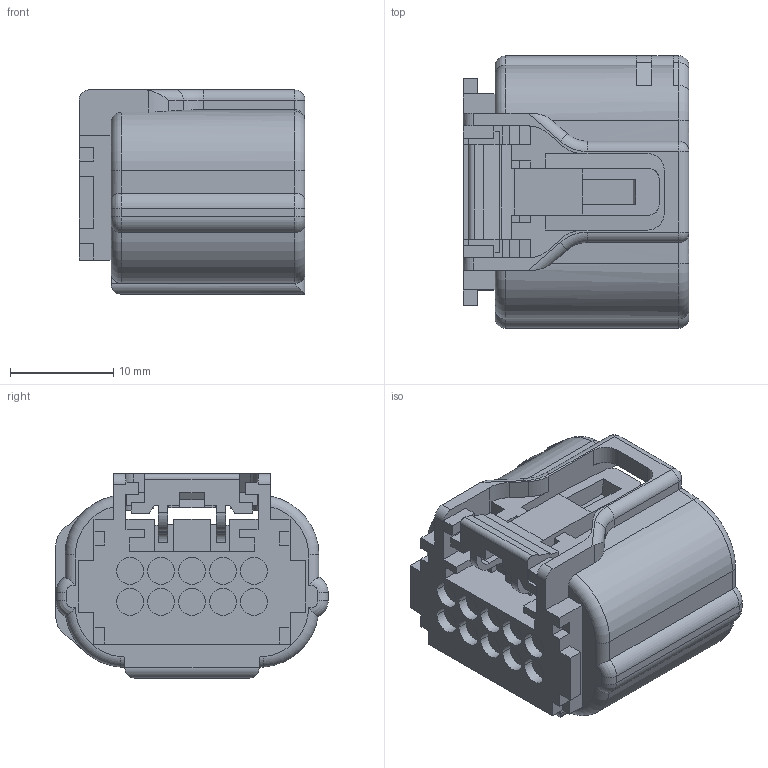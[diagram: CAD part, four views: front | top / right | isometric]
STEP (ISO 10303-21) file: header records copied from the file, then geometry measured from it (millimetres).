
FILE_DESCRIPTION(('CATIA V5 STEP Exchange'),'2;1');
FILE_NAME('N:\C-DAM_MyDesk\ENV\11093U\1設\6189-1134.stp','2013-02-28T03:07:34+00:00',('none'),('none'),'CATIA Version 5 Release 20 SP 4 (IN-10)','CATIA V5 STEP AP203','none');
FILE_SCHEMA(('CONFIG_CONTROL_DESIGN'));
Length unit declared in the file: millimetre
Products named in the file (1): 6189-1134
Bounding box: 21.9 x 26.4 x 19.8 mm (x, y, z)
Volume: 6183.8 mm3; surface area: 5153.2 mm2
Topology: 1 solids, 1 shells, 373 faces, 1016 edges, 652 vertices
Faces by surface type: plane 235, cylinder 104, torus 20, revolution 6, cone 6, sphere 2
Entity records: 11247 total; most frequent: CARTESIAN_POINT 2291, ORIENTED_EDGE 2032, DIRECTION 1509, EDGE_CURVE 1016, VECTOR 741, LINE 741, VERTEX_POINT 652, AXIS2_PLACEMENT_3D 496
